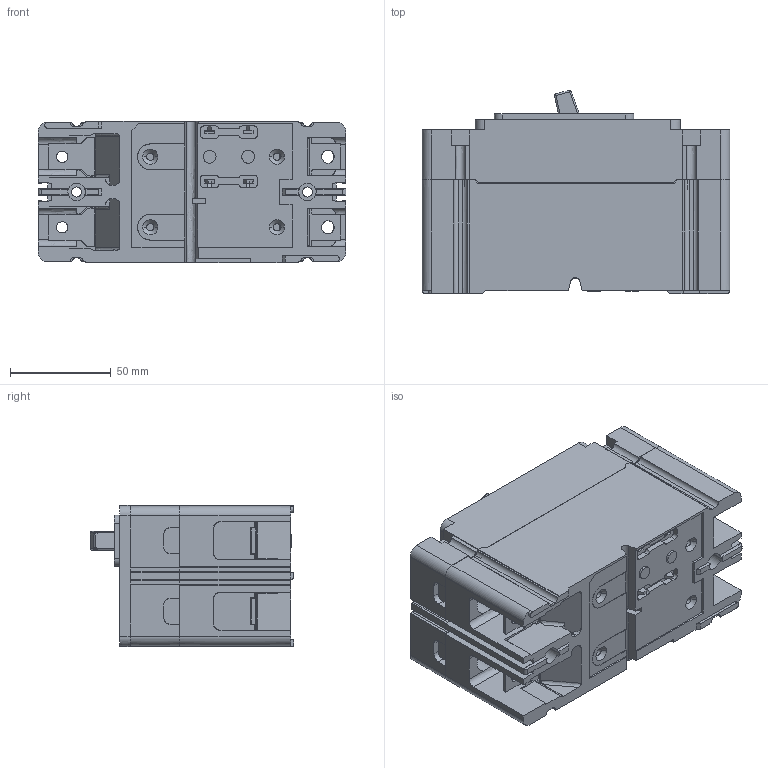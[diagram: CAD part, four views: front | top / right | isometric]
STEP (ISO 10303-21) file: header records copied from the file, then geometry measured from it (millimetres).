
FILE_DESCRIPTION((''),'2;1');
FILE_NAME('FD_2P_SHRINKWRAP','2003-05-08T11:51:08',('hopkin_m'),(''),'PRO/ENGINEER BY PARAMETRIC TECHNOLOGY CORPORATION, 2001150','PRO/ENGINEER BY PARAMETRIC TECHNOLOGY CORPORATION, 2001150','');
FILE_SCHEMA(('CONFIG_CONTROL_DESIGN'));
Products named in the file (1): FD_2P_SHRINKWRAP
Bounding box: 152.4 x 100.72 x 69.85 mm (x, y, z)
Surface area: 145384.3 mm2 (no closed solid volume)
Topology: 0 solids, 0 shells, 725 faces, 4275 edges, 4271 vertices
Faces by surface type: bspline 721, sphere 4
Entity records: 82913 total; most frequent: CARTESIAN_POINT 42791, DIRECTION 6471, TRIMMED_CURVE 5979, VECTOR 5495, LINE 5495, DEFINITIONAL_REPRESENTATION 4267, PCURVE 4267, COMPOSITE_CURVE_SEGMENT 4267
